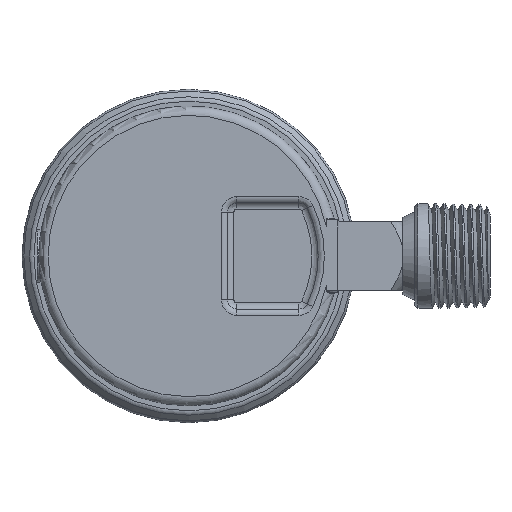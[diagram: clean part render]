
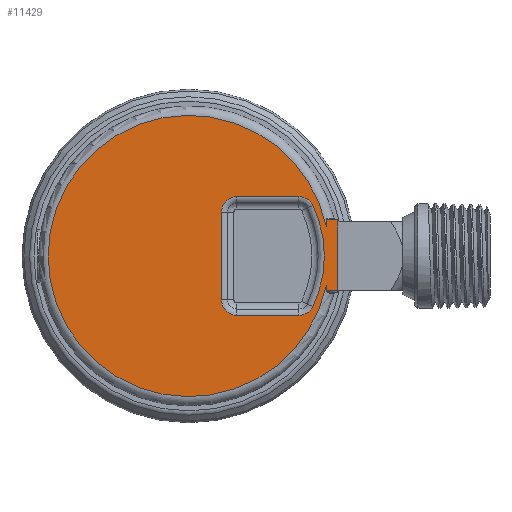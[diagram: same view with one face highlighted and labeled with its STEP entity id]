
A CAD part, left-side view. The second image highlights one B-rep face of the part: STEP entity #11429.
In plain terms, the highlighted planar face has unit normal (-1, 0, 0) as drawn and (0, 0, -1) by its records, which use the part's own axes.
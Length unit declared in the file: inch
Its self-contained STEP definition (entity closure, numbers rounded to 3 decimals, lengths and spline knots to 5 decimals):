
#176=FACE_BOUND('',#4218,.T.);
#250=B_SPLINE_CURVE_WITH_KNOTS('',3,(#16570,#16571,#16572,#16573,#16574,
#16575),.UNSPECIFIED.,.F.,.F.,(4,2,4),(-0.06641,-0.03262,
0.),.UNSPECIFIED.);
#338=PLANE('',#12341);
#838=LINE('',#16543,#2141);
#839=LINE('',#16552,#2142);
#840=LINE('',#16562,#2143);
#841=LINE('',#16566,#2144);
#842=LINE('',#16568,#2145);
#843=LINE('',#16577,#2146);
#844=LINE('',#16581,#2147);
#845=LINE('',#16582,#2148);
#2141=VECTOR('',#13317,0.0625);
#2142=VECTOR('',#13330,0.0625);
#2143=VECTOR('',#13345,0.0625);
#2144=VECTOR('',#13348,0.3937);
#2145=VECTOR('',#13349,0.3937);
#2146=VECTOR('',#13350,0.3937);
#2147=VECTOR('',#13353,0.3937);
#2148=VECTOR('',#13354,0.3937);
#3566=FACE_OUTER_BOUND('',#4217,.T.);
#4217=EDGE_LOOP('',(#8096,#8097,#8098,#8099,#8100,#8101,#8102));
#4218=EDGE_LOOP('',(#8103,#8104,#8105,#8106,#8107,#8108,#8109,#8110));
#4944=CIRCLE('',#12321,0.94328);
#4947=CIRCLE('',#12325,0.12374);
#4950=CIRCLE('',#12330,0.12374);
#4952=CIRCLE('',#12335,0.12374);
#4955=CIRCLE('',#12339,0.12374);
#4956=CIRCLE('',#12342,1.13);
#5229=VERTEX_POINT('',#16531);
#5230=VERTEX_POINT('',#16533);
#5231=VERTEX_POINT('',#16537);
#5232=VERTEX_POINT('',#16541);
#5233=VERTEX_POINT('',#16545);
#5234=VERTEX_POINT('',#16550);
#5235=VERTEX_POINT('',#16554);
#5236=VERTEX_POINT('',#16558);
#5237=VERTEX_POINT('',#16564);
#5238=VERTEX_POINT('',#16565);
#5239=VERTEX_POINT('',#16567);
#5240=VERTEX_POINT('',#16569);
#5241=VERTEX_POINT('',#16576);
#5242=VERTEX_POINT('',#16578);
#5243=VERTEX_POINT('',#16580);
#6357=EDGE_CURVE('',#5229,#5230,#4944,.T.);
#6360=EDGE_CURVE('',#5231,#5229,#4947,.T.);
#6362=EDGE_CURVE('',#5232,#5231,#838,.T.);
#6364=EDGE_CURVE('',#5233,#5232,#4950,.T.);
#6366=EDGE_CURVE('',#5234,#5233,#839,.T.);
#6367=EDGE_CURVE('',#5230,#5235,#4952,.T.);
#6370=EDGE_CURVE('',#5236,#5234,#4955,.T.);
#6371=EDGE_CURVE('',#5235,#5236,#840,.T.);
#6372=EDGE_CURVE('',#5237,#5238,#841,.T.);
#6373=EDGE_CURVE('',#5237,#5239,#842,.T.);
#6374=EDGE_CURVE('',#5239,#5240,#250,.F.);
#6375=EDGE_CURVE('',#5241,#5240,#843,.T.);
#6376=EDGE_CURVE('',#5242,#5241,#4956,.T.);
#6377=EDGE_CURVE('',#5243,#5242,#844,.T.);
#6378=EDGE_CURVE('',#5238,#5243,#845,.T.);
#8096=ORIENTED_EDGE('',*,*,#6372,.F.);
#8097=ORIENTED_EDGE('',*,*,#6373,.T.);
#8098=ORIENTED_EDGE('',*,*,#6374,.T.);
#8099=ORIENTED_EDGE('',*,*,#6375,.F.);
#8100=ORIENTED_EDGE('',*,*,#6376,.F.);
#8101=ORIENTED_EDGE('',*,*,#6377,.F.);
#8102=ORIENTED_EDGE('',*,*,#6378,.F.);
#8103=ORIENTED_EDGE('',*,*,#6362,.F.);
#8104=ORIENTED_EDGE('',*,*,#6364,.F.);
#8105=ORIENTED_EDGE('',*,*,#6366,.F.);
#8106=ORIENTED_EDGE('',*,*,#6370,.F.);
#8107=ORIENTED_EDGE('',*,*,#6371,.F.);
#8108=ORIENTED_EDGE('',*,*,#6367,.F.);
#8109=ORIENTED_EDGE('',*,*,#6357,.F.);
#8110=ORIENTED_EDGE('',*,*,#6360,.F.);
#11429=ADVANCED_FACE('',(#3566,#176),#338,.F.);
#12321=AXIS2_PLACEMENT_3D('',#16534,#13303,#13304);
#12325=AXIS2_PLACEMENT_3D('',#16539,#13311,#13312);
#12330=AXIS2_PLACEMENT_3D('',#16547,#13322,#13323);
#12335=AXIS2_PLACEMENT_3D('',#16555,#13333,#13334);
#12339=AXIS2_PLACEMENT_3D('',#16560,#13341,#13342);
#12341=AXIS2_PLACEMENT_3D('',#16563,#13346,#13347);
#12342=AXIS2_PLACEMENT_3D('',#16579,#13351,#13352);
#13303=DIRECTION('center_axis',(0.,0.,-1.));
#13304=DIRECTION('ref_axis',(-0.43,0.903,0.));
#13311=DIRECTION('center_axis',(0.,0.,-1.));
#13312=DIRECTION('ref_axis',(-1.,0.,0.));
#13317=DIRECTION('',(0.,-1.,0.));
#13322=DIRECTION('center_axis',(0.,0.,-1.));
#13323=DIRECTION('ref_axis',(-1.,0.,0.));
#13330=DIRECTION('',(1.,0.,0.));
#13333=DIRECTION('center_axis',(0.,0.,-1.));
#13334=DIRECTION('ref_axis',(0.43,0.903,0.));
#13341=DIRECTION('center_axis',(0.,0.,-1.));
#13342=DIRECTION('ref_axis',(0.,-1.,0.));
#13345=DIRECTION('',(0.,1.,0.));
#13346=DIRECTION('center_axis',(0.,0.,1.));
#13347=DIRECTION('ref_axis',(1.,0.,0.));
#13348=DIRECTION('',(1.,0.,0.));
#13349=DIRECTION('',(0.,1.,0.));
#13350=DIRECTION('',(-1.,0.,0.));
#13351=DIRECTION('center_axis',(0.,0.,1.));
#13352=DIRECTION('ref_axis',(-1.,0.,0.));
#13353=DIRECTION('',(-1.,0.,0.));
#13354=DIRECTION('',(0.,1.,0.));
#16531=CARTESIAN_POINT('',(0.40572,-0.99725,0.));
#16533=CARTESIAN_POINT('',(-0.40572,-0.99725,0.));
#16534=CARTESIAN_POINT('Origin',(0.,-0.14568,
0.));
#16537=CARTESIAN_POINT('',(0.47624,-0.88555,0.));
#16539=CARTESIAN_POINT('Origin',(0.3525,-0.88555,0.));
#16541=CARTESIAN_POINT('',(0.47624,-0.3865,0.));
#16543=CARTESIAN_POINT('',(0.47624,-0.3865,0.));
#16545=CARTESIAN_POINT('',(0.3525,-0.26276,0.));
#16547=CARTESIAN_POINT('Origin',(0.3525,-0.3865,0.));
#16550=CARTESIAN_POINT('',(-0.3525,-0.26276,0.));
#16552=CARTESIAN_POINT('',(-0.3525,-0.26276,0.));
#16554=CARTESIAN_POINT('',(-0.47624,-0.88555,0.));
#16555=CARTESIAN_POINT('Origin',(-0.3525,-0.88555,0.));
#16558=CARTESIAN_POINT('',(-0.47624,-0.3865,0.));
#16560=CARTESIAN_POINT('Origin',(-0.3525,-0.3865,0.));
#16562=CARTESIAN_POINT('',(-0.47624,-0.88555,0.));
#16563=CARTESIAN_POINT('Origin',(0.,0.,
0.));
#16564=CARTESIAN_POINT('',(-0.29,-1.195,0.));
#16565=CARTESIAN_POINT('',(0.28,-1.195,0.));
#16566=CARTESIAN_POINT('',(0.,-1.195,0.));
#16567=CARTESIAN_POINT('',(-0.29,-1.13079,0.00004));
#16568=CARTESIAN_POINT('',(-0.29,-1.205,0.));
#16569=CARTESIAN_POINT('',(-0.29479,-1.105,0.));
#16570=CARTESIAN_POINT('Ctrl Pts',(-0.29479,-1.105,
0.));
#16571=CARTESIAN_POINT('Ctrl Pts',(-0.29343,-1.10939,
0.));
#16572=CARTESIAN_POINT('Ctrl Pts',(-0.29233,-1.11339,
0.));
#16573=CARTESIAN_POINT('Ctrl Pts',(-0.29061,-1.12194,
0.));
#16574=CARTESIAN_POINT('Ctrl Pts',(-0.29,-1.12643,
0.));
#16575=CARTESIAN_POINT('Ctrl Pts',(-0.29,-1.13071,
0.));
#16576=CARTESIAN_POINT('',(-0.23638,-1.105,0.));
#16577=CARTESIAN_POINT('',(-0.29,-1.105,0.));
#16578=CARTESIAN_POINT('',(0.23638,-1.105,0.));
#16579=CARTESIAN_POINT('Origin',(0.,0.,0.));
#16580=CARTESIAN_POINT('',(0.28,-1.105,0.));
#16581=CARTESIAN_POINT('',(-0.29,-1.105,0.));
#16582=CARTESIAN_POINT('',(0.28,-0.6025,0.));
